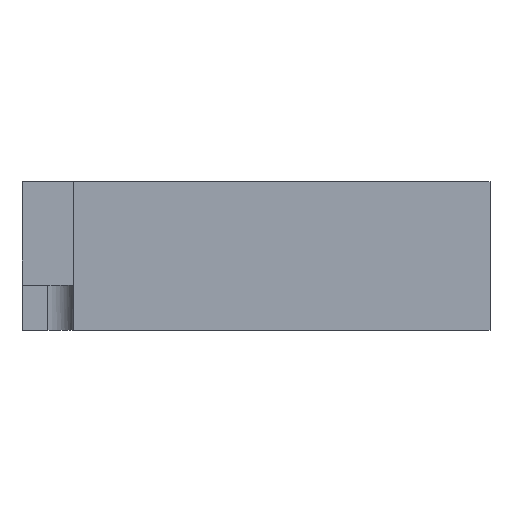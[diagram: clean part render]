
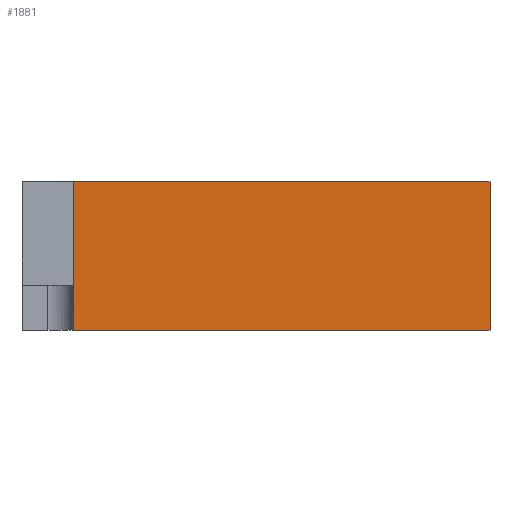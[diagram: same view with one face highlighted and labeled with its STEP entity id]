
A CAD part, front view. The second image highlights one B-rep face of the part: STEP entity #1881.
In plain terms, the highlighted planar face has unit normal (0, -1, 0).
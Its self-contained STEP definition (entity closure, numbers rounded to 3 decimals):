
#114=FACE_OUTER_BOUND('',#215,.T.);
#215=EDGE_LOOP('',(#1378,#1379,#1380,#1381));
#339=LINE('',#2775,#575);
#365=LINE('',#2835,#601);
#367=LINE('',#2839,#603);
#368=LINE('',#2840,#604);
#575=VECTOR('',#2257,10.);
#601=VECTOR('',#2309,10.);
#603=VECTOR('',#2313,10.);
#604=VECTOR('',#2314,10.);
#815=VERTEX_POINT('',#2771);
#816=VERTEX_POINT('',#2773);
#837=VERTEX_POINT('',#2834);
#838=VERTEX_POINT('',#2838);
#1019=EDGE_CURVE('',#815,#816,#339,.T.);
#1048=EDGE_CURVE('',#837,#815,#365,.T.);
#1050=EDGE_CURVE('',#816,#838,#367,.T.);
#1051=EDGE_CURVE('',#838,#837,#368,.F.);
#1378=ORIENTED_EDGE('',*,*,#1019,.T.);
#1379=ORIENTED_EDGE('',*,*,#1050,.T.);
#1380=ORIENTED_EDGE('',*,*,#1051,.T.);
#1381=ORIENTED_EDGE('',*,*,#1048,.T.);
#1784=PLANE('',#2025);
#1881=ADVANCED_FACE('',(#114),#1784,.F.);
#2025=AXIS2_PLACEMENT_3D('',#2837,#2311,#2312);
#2257=DIRECTION('',(0.,0.,-1.));
#2309=DIRECTION('',(-1.,0.,0.));
#2311=DIRECTION('center_axis',(0.,1.,0.));
#2312=DIRECTION('ref_axis',(-1.,0.,0.));
#2313=DIRECTION('',(1.,0.,0.));
#2314=DIRECTION('',(0.,0.,-1.));
#2771=CARTESIAN_POINT('',(-9.003,8.064,122.895));
#2773=CARTESIAN_POINT('',(-9.003,8.064,99.895));
#2775=CARTESIAN_POINT('',(-9.003,8.064,103.395));
#2834=CARTESIAN_POINT('',(55.24,8.064,122.895));
#2835=CARTESIAN_POINT('',(28.148,8.064,122.895));
#2837=CARTESIAN_POINT('Origin',(19.118,8.064,106.895));
#2838=CARTESIAN_POINT('',(55.24,8.064,99.895));
#2839=CARTESIAN_POINT('',(0.,8.064,99.895));
#2840=CARTESIAN_POINT('',(55.24,8.064,105.145));
